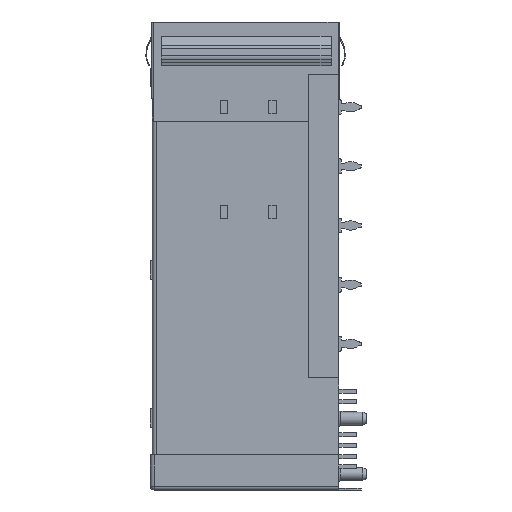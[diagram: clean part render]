
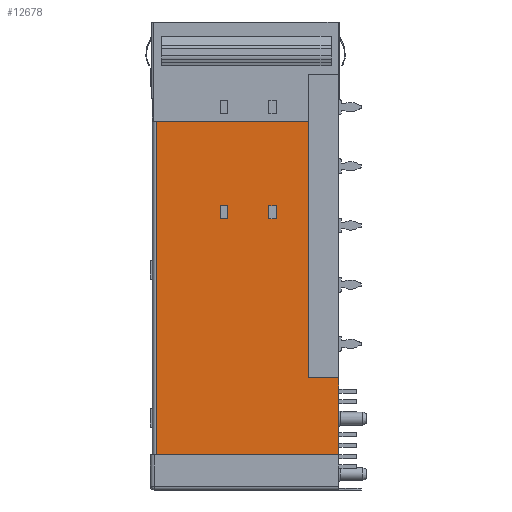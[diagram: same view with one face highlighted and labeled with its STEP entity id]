
A CAD part, left-side view. The second image highlights one B-rep face of the part: STEP entity #12678.
In plain terms, the highlighted planar face has unit normal (-1, 0, 0).
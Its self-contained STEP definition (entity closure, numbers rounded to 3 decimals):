
#229 = CARTESIAN_POINT ( 'NONE',  ( -14.375, 0., -58.5 ) ) ;
#243 = EDGE_CURVE ( 'NONE', #28707, #17242, #7824, .T. ) ;
#324 = VERTEX_POINT ( 'NONE', #15020 ) ;
#334 = ORIENTED_EDGE ( 'NONE', *, *, #1376, .T. ) ;
#699 = CARTESIAN_POINT ( 'NONE',  ( -14.375, 24.7, -63.25 ) ) ;
#1376 = EDGE_CURVE ( 'NONE', #17242, #27503, #34808, .T. ) ;
#1534 = ORIENTED_EDGE ( 'NONE', *, *, #32189, .F. ) ;
#2179 = VERTEX_POINT ( 'NONE', #22319 ) ;
#3023 = DIRECTION ( 'NONE',  ( 0., 0., -1. ) ) ;
#3636 = CARTESIAN_POINT ( 'NONE',  ( -14.375, 0., -48.1 ) ) ;
#4133 = VECTOR ( 'NONE', #30024, 1000. ) ;
#4435 = CARTESIAN_POINT ( 'NONE',  ( -14.375, 15., -26.6 ) ) ;
#4579 = VERTEX_POINT ( 'NONE', #9417 ) ;
#4818 = LINE ( 'NONE', #21949, #20240 ) ;
#5828 = CARTESIAN_POINT ( 'NONE',  ( -14.375, 16., -24.8 ) ) ;
#6148 = CARTESIAN_POINT ( 'NONE',  ( -14.375, 8.45, -24.8 ) ) ;
#6344 = DIRECTION ( 'NONE',  ( 0., 1., 0. ) ) ;
#6951 = LINE ( 'NONE', #25467, #10137 ) ;
#7420 = DIRECTION ( 'NONE',  ( 0., 0., -1. ) ) ;
#7493 = EDGE_LOOP ( 'NONE', ( #20957, #27754, #334, #30215 ) ) ;
#7824 = LINE ( 'NONE', #31849, #22271 ) ;
#7941 = VERTEX_POINT ( 'NONE', #29672 ) ;
#7977 = ORIENTED_EDGE ( 'NONE', *, *, #30234, .T. ) ;
#8125 = CARTESIAN_POINT ( 'NONE',  ( -14.375, 25.2, -13.4 ) ) ;
#8297 = LINE ( 'NONE', #22303, #29522 ) ;
#8316 = DIRECTION ( 'NONE',  ( 0., 0., 1. ) ) ;
#8803 = VERTEX_POINT ( 'NONE', #13149 ) ;
#8951 = VECTOR ( 'NONE', #31999, 1000. ) ;
#9417 = CARTESIAN_POINT ( 'NONE',  ( -14.375, 4.1, -48.1 ) ) ;
#10098 = EDGE_LOOP ( 'NONE', ( #1534, #14323, #30713, #12068, #24830, #32708 ) ) ;
#10137 = VECTOR ( 'NONE', #8316, 1000. ) ;
#10211 = VERTEX_POINT ( 'NONE', #20101 ) ;
#10527 = CARTESIAN_POINT ( 'NONE',  ( -14.375, 16., -24.8 ) ) ;
#10894 = VERTEX_POINT ( 'NONE', #229 ) ;
#11003 = DIRECTION ( 'NONE',  ( 0., -1., 0. ) ) ;
#11545 = VERTEX_POINT ( 'NONE', #23458 ) ;
#12066 = VECTOR ( 'NONE', #16039, 1000. ) ;
#12068 = ORIENTED_EDGE ( 'NONE', *, *, #27120, .T. ) ;
#12179 = LINE ( 'NONE', #14113, #33005 ) ;
#12397 = ORIENTED_EDGE ( 'NONE', *, *, #26253, .T. ) ;
#12678 = ADVANCED_FACE ( 'NONE', ( #25013, #24127, #14613 ), #15426, .T. ) ;
#12788 = VERTEX_POINT ( 'NONE', #4435 ) ;
#12998 = CARTESIAN_POINT ( 'NONE',  ( -14.375, 0., -63.25 ) ) ;
#13149 = CARTESIAN_POINT ( 'NONE',  ( -14.375, 15., -24.8 ) ) ;
#13358 = VECTOR ( 'NONE', #24600, 1000. ) ;
#14113 = CARTESIAN_POINT ( 'NONE',  ( -14.375, 25.2, -58.5 ) ) ;
#14323 = ORIENTED_EDGE ( 'NONE', *, *, #20598, .T. ) ;
#14613 = FACE_OUTER_BOUND ( 'NONE', #10098, .T. ) ;
#14728 = LINE ( 'NONE', #15738, #13358 ) ;
#14750 = EDGE_CURVE ( 'NONE', #2179, #10894, #12179, .T. ) ;
#15020 = CARTESIAN_POINT ( 'NONE',  ( -14.375, 9.45, -24.8 ) ) ;
#15426 = PLANE ( 'NONE',  #26100 ) ;
#15738 = CARTESIAN_POINT ( 'NONE',  ( -14.375, 0., -63.25 ) ) ;
#16039 = DIRECTION ( 'NONE',  ( 0., -1., 0. ) ) ;
#16336 = LINE ( 'NONE', #30878, #25401 ) ;
#16606 = LINE ( 'NONE', #5828, #8951 ) ;
#16679 = LINE ( 'NONE', #30411, #24809 ) ;
#16710 = ORIENTED_EDGE ( 'NONE', *, *, #32568, .T. ) ;
#16952 = ORIENTED_EDGE ( 'NONE', *, *, #25538, .T. ) ;
#17242 = VERTEX_POINT ( 'NONE', #30106 ) ;
#17957 = LINE ( 'NONE', #8125, #12066 ) ;
#18461 = DIRECTION ( 'NONE',  ( 0., 0., 1. ) ) ;
#18691 = DIRECTION ( 'NONE',  ( 0., -1., 0. ) ) ;
#19195 = VECTOR ( 'NONE', #26384, 1000. ) ;
#20101 = CARTESIAN_POINT ( 'NONE',  ( -14.375, 0., -48.1 ) ) ;
#20240 = VECTOR ( 'NONE', #18691, 1000. ) ;
#20480 = EDGE_CURVE ( 'NONE', #324, #28707, #16336, .T. ) ;
#20598 = EDGE_CURVE ( 'NONE', #21739, #2179, #35293, .T. ) ;
#20957 = ORIENTED_EDGE ( 'NONE', *, *, #20480, .T. ) ;
#21739 = VERTEX_POINT ( 'NONE', #23625 ) ;
#21768 = EDGE_CURVE ( 'NONE', #10211, #4579, #34568, .T. ) ;
#21949 = CARTESIAN_POINT ( 'NONE',  ( -14.375, 16., -24.8 ) ) ;
#21991 = EDGE_LOOP ( 'NONE', ( #16710, #16952, #7977, #12397 ) ) ;
#22145 = EDGE_CURVE ( 'NONE', #27503, #324, #6951, .T. ) ;
#22271 = VECTOR ( 'NONE', #3023, 1000. ) ;
#22303 = CARTESIAN_POINT ( 'NONE',  ( -14.375, 4.1, -7.1 ) ) ;
#22319 = CARTESIAN_POINT ( 'NONE',  ( -14.375, 24.7, -58.5 ) ) ;
#23458 = CARTESIAN_POINT ( 'NONE',  ( -14.375, 16., -26.6 ) ) ;
#23625 = CARTESIAN_POINT ( 'NONE',  ( -14.375, 24.7, -13.4 ) ) ;
#24127 = FACE_BOUND ( 'NONE', #21991, .T. ) ;
#24600 = DIRECTION ( 'NONE',  ( 0., 0., 1. ) ) ;
#24809 = VECTOR ( 'NONE', #7420, 1000. ) ;
#24830 = ORIENTED_EDGE ( 'NONE', *, *, #21768, .T. ) ;
#24953 = DIRECTION ( 'NONE',  ( 0., 0., 1. ) ) ;
#25013 = FACE_BOUND ( 'NONE', #7493, .T. ) ;
#25401 = VECTOR ( 'NONE', #11003, 1000. ) ;
#25467 = CARTESIAN_POINT ( 'NONE',  ( -14.375, 9.45, -24.8 ) ) ;
#25538 = EDGE_CURVE ( 'NONE', #8803, #12788, #16679, .T. ) ;
#26100 = AXIS2_PLACEMENT_3D ( 'NONE', #12998, #33238, #18461 ) ;
#26253 = EDGE_CURVE ( 'NONE', #11545, #33232, #16606, .T. ) ;
#26384 = DIRECTION ( 'NONE',  ( 0., 1., 0. ) ) ;
#27120 = EDGE_CURVE ( 'NONE', #10894, #10211, #14728, .T. ) ;
#27498 = CARTESIAN_POINT ( 'NONE',  ( -14.375, 16., -26.6 ) ) ;
#27503 = VERTEX_POINT ( 'NONE', #32274 ) ;
#27611 = DIRECTION ( 'NONE',  ( 0., 1., 0. ) ) ;
#27754 = ORIENTED_EDGE ( 'NONE', *, *, #243, .T. ) ;
#28145 = DIRECTION ( 'NONE',  ( 0., -1., 0. ) ) ;
#28707 = VERTEX_POINT ( 'NONE', #6148 ) ;
#29522 = VECTOR ( 'NONE', #24953, 1000. ) ;
#29672 = CARTESIAN_POINT ( 'NONE',  ( -14.375, 4.1, -13.4 ) ) ;
#30024 = DIRECTION ( 'NONE',  ( 0., 0., -1. ) ) ;
#30106 = CARTESIAN_POINT ( 'NONE',  ( -14.375, 8.45, -26.6 ) ) ;
#30215 = ORIENTED_EDGE ( 'NONE', *, *, #22145, .T. ) ;
#30234 = EDGE_CURVE ( 'NONE', #12788, #11545, #33035, .T. ) ;
#30411 = CARTESIAN_POINT ( 'NONE',  ( -14.375, 15., -24.8 ) ) ;
#30713 = ORIENTED_EDGE ( 'NONE', *, *, #14750, .T. ) ;
#30878 = CARTESIAN_POINT ( 'NONE',  ( -14.375, 9.45, -24.8 ) ) ;
#31223 = VECTOR ( 'NONE', #6344, 1000. ) ;
#31716 = VECTOR ( 'NONE', #27611, 1000. ) ;
#31849 = CARTESIAN_POINT ( 'NONE',  ( -14.375, 8.45, -24.8 ) ) ;
#31999 = DIRECTION ( 'NONE',  ( 0., 0., 1. ) ) ;
#32013 = CARTESIAN_POINT ( 'NONE',  ( -14.375, 9.45, -26.6 ) ) ;
#32189 = EDGE_CURVE ( 'NONE', #21739, #7941, #17957, .T. ) ;
#32274 = CARTESIAN_POINT ( 'NONE',  ( -14.375, 9.45, -26.6 ) ) ;
#32568 = EDGE_CURVE ( 'NONE', #33232, #8803, #4818, .T. ) ;
#32708 = ORIENTED_EDGE ( 'NONE', *, *, #37063, .T. ) ;
#33005 = VECTOR ( 'NONE', #28145, 1000. ) ;
#33035 = LINE ( 'NONE', #27498, #31716 ) ;
#33232 = VERTEX_POINT ( 'NONE', #10527 ) ;
#33238 = DIRECTION ( 'NONE',  ( -1., 0., 0. ) ) ;
#34568 = LINE ( 'NONE', #3636, #19195 ) ;
#34808 = LINE ( 'NONE', #32013, #31223 ) ;
#35293 = LINE ( 'NONE', #699, #4133 ) ;
#37063 = EDGE_CURVE ( 'NONE', #4579, #7941, #8297, .T. ) ;
